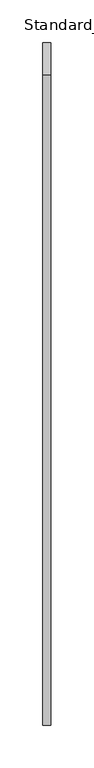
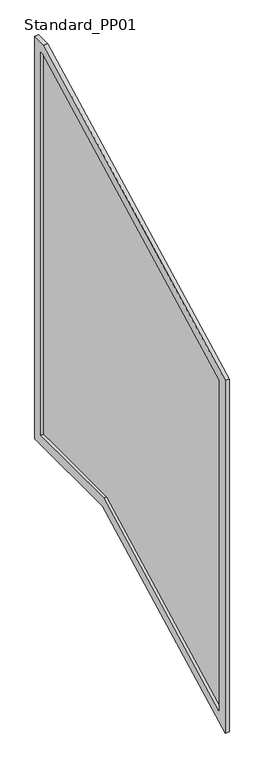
"""IFC4 building model written with IfcOpenShell, lengths in millimetres: railing geometry, Baluster-Landing-Panel-VIVA-STRUC-Lower : Standard_PP01."""

from ifc_helpers import new_model, si_unit, frame, origin, place, context, project, spatial, polyline, outline, extrude, source, transform, mapped, element, save


def standard_pp01_0bf05b01(model_context):
    return source(origin(), model_context, "Body", "SweptSolid", [
        extrude(outline(polyline([(508.8760777, -73.8135019), (25.4, -325.4952177), (25.4, 519.7841206), (767.592344, 906.145), (773.9140023, 906.145), (773.9140023, -73.8135019), (508.8760777, -73.8135019)])), frame((14.2584857, 0.0, 0.0), z_axis=(1.0, 0.0, 0.0), x_axis=(0.0, 1.0, 0.0)), (0.0, 0.0, 1.0), 2.9972),
        extrude(outline(polyline([(0.0, -367.3531222), (0.0, 535.1972189), (761.3770035, 931.545), (799.3140023, 931.545), (799.3140023, -99.2135019), (515.0914182, -99.2135019), (0.0, -367.3531222)]), holes=[polyline([(773.9140023, 906.145), (767.592344, 906.145), (25.4, 519.7841206), (25.4, -325.4952177), (508.8760777, -73.8135019), (773.9140023, -73.8135019), (773.9140023, 906.145)])]), frame((7.6036857, 0.0, 0.0), z_axis=(1.0, 0.0, 0.0), x_axis=(0.0, 1.0, 0.0)), (0.0, 0.0, 1.0), 9.652),
    ])


if __name__ == "__main__":
    model = new_model("IFC4")
    model_context = context("Model", 3, world=origin())
    ifc_project = project(units=[si_unit("LENGTHUNIT", "METRE", prefix="MILLI")], contexts=[model_context])
    site = spatial("IfcSite", under=ifc_project)
    building = spatial("IfcBuilding", under=site)
    placement = place(None, origin())
    standard_pp01_shape = standard_pp01_0bf05b01(model_context)
    element("IfcRailing", 1, ObjectType="Baluster-Landing-Panel-VIVA-STRUC-Lower : Standard_PP01", at=placement, inside=building, context=model_context, shape_type="MappedRepresentation", body=[
        mapped(standard_pp01_shape, transform((0.0, 0.0, 0.0), x_axis=(1.0, 0.0, 0.0), y_axis=(0.0, 1.0, 0.0), z_axis=(0.0, 0.0, 1.0))),
    ])
    save(model, "model.ifc")
